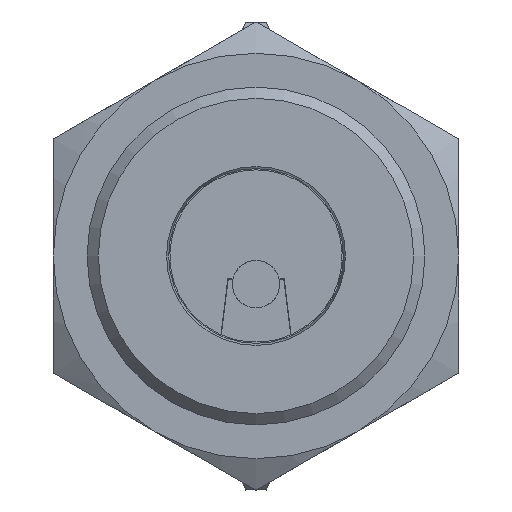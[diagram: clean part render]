
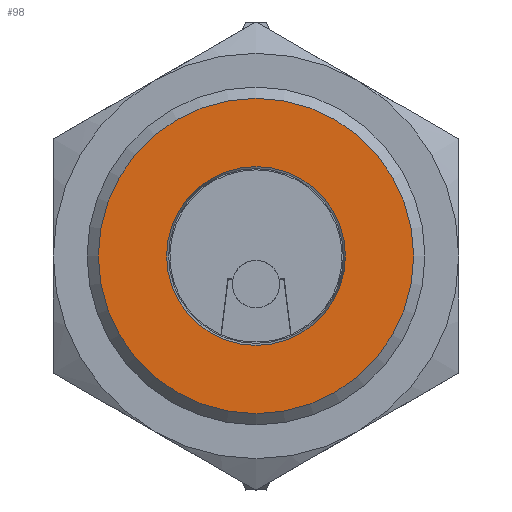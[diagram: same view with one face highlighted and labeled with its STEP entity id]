
A CAD part, left-side view. The second image highlights one B-rep face of the part: STEP entity #98.
In plain terms, the highlighted planar face has unit normal (-1, 0, 0).
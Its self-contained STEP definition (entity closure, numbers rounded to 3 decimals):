
#98 = ADVANCED_FACE( '', ( #242, #243 ), #244, .T. );
#242 = FACE_BOUND( '', #451, .T. );
#243 = FACE_OUTER_BOUND( '', #452, .T. );
#244 = PLANE( '', #453 );
#451 = EDGE_LOOP( '', ( #671 ) );
#452 = EDGE_LOOP( '', ( #672 ) );
#453 = AXIS2_PLACEMENT_3D( '', #673, #674, #675 );
#671 = ORIENTED_EDGE( '', *, *, #1137, .T. );
#672 = ORIENTED_EDGE( '', *, *, #1138, .T. );
#673 = CARTESIAN_POINT( '', ( -49.45, 0., 0. ) );
#674 = DIRECTION( '', ( -1., 0., 0. ) );
#675 = DIRECTION( '', ( 0., 0., 1. ) );
#1137 = EDGE_CURVE( '', #1329, #1329, #1330, .T. );
#1138 = EDGE_CURVE( '', #1331, #1331, #1332, .T. );
#1329 = VERTEX_POINT( '', #1616 );
#1330 = CIRCLE( '', #1617, 7.938 );
#1331 = VERTEX_POINT( '', #1618 );
#1332 = CIRCLE( '', #1619, 14. );
#1616 = CARTESIAN_POINT( '', ( -49.45, 0., -7.938 ) );
#1617 = AXIS2_PLACEMENT_3D( '', #2056, #2057, #2058 );
#1618 = CARTESIAN_POINT( '', ( -49.45, 0., 14. ) );
#1619 = AXIS2_PLACEMENT_3D( '', #2059, #2060, #2061 );
#2056 = CARTESIAN_POINT( '', ( -49.45, 0., 0. ) );
#2057 = DIRECTION( '', ( 1., 0., 0. ) );
#2058 = DIRECTION( '', ( 0., 0., -1. ) );
#2059 = CARTESIAN_POINT( '', ( -49.45, 0., 0. ) );
#2060 = DIRECTION( '', ( -1., 0., 0. ) );
#2061 = DIRECTION( '', ( 0., 0., 1. ) );
